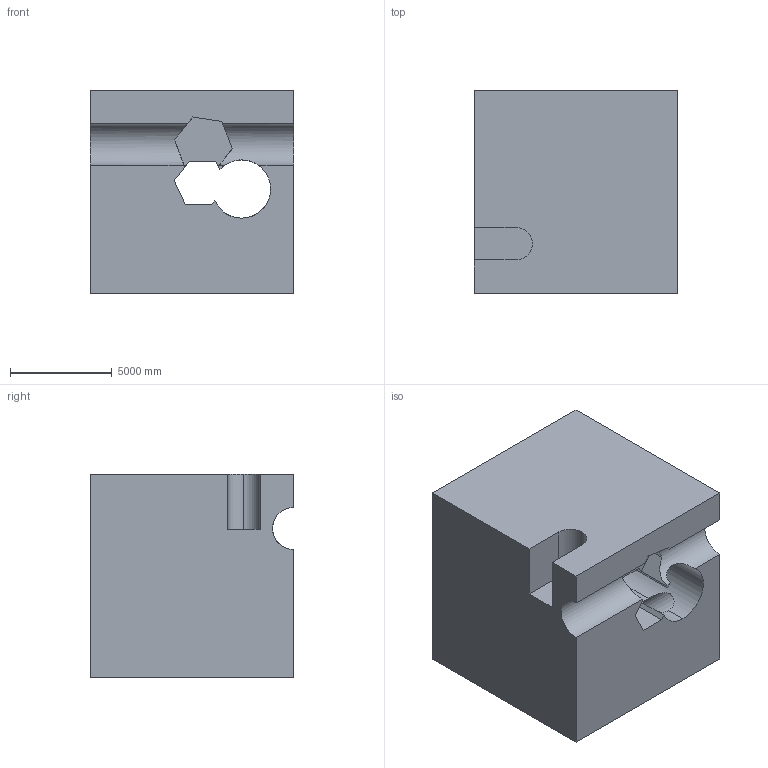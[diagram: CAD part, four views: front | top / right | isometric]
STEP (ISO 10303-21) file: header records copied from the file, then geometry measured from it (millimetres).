
FILE_DESCRIPTION (( 'STEP AP203' ), '1' );
FILE_NAME ('102.STEP', '2022-08-31T11:34:49', ( 'user' ), ( '' ), 'SwSTEP 2.0', 'SolidWorks 2021', '' );
FILE_SCHEMA (( 'CONFIG_CONTROL_DESIGN' ));
Length unit declared in the file: centimetre
Products named in the file (1): 102
Bounding box: 10000 x 10000 x 10000 mm (x, y, z)
Volume: 846499223580.4 mm3; surface area: 765355531.9 mm2
Topology: 1 solids, 1 shells, 33 faces, 99 edges, 66 vertices
Faces by surface type: plane 24, cylinder 9
Entity records: 1579 total; most frequent: CARTESIAN_POINT 608, ORIENTED_EDGE 198, DIRECTION 173, EDGE_CURVE 99, VECTOR 73, LINE 73, VERTEX_POINT 66, AXIS2_PLACEMENT_3D 50
